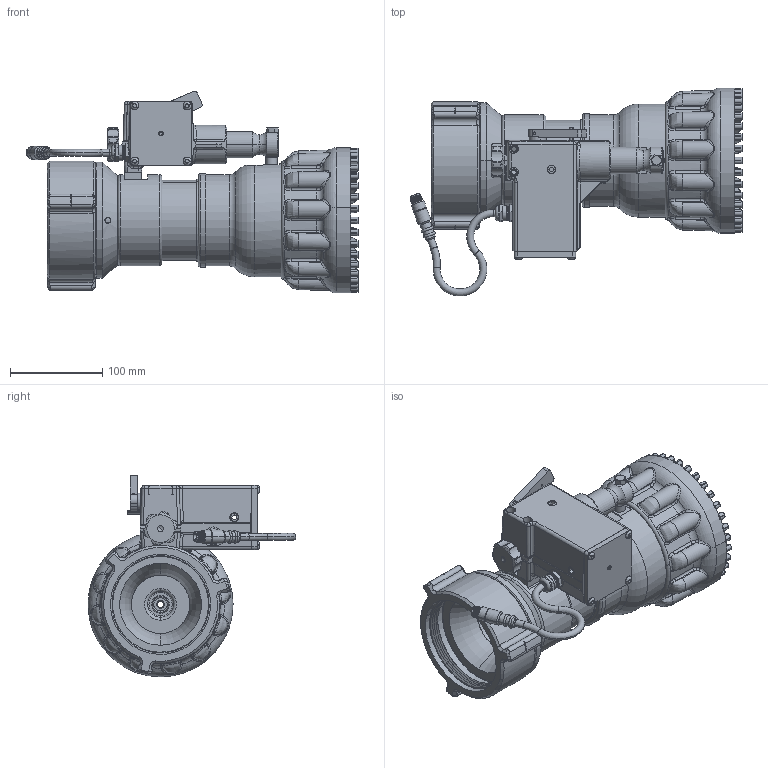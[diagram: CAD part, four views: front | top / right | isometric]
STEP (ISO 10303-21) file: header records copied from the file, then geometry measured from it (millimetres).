
FILE_DESCRIPTION (( 'STEP AP203' ), '1' );
FILE_NAME ('M-ERP1000-NN.step', '2014-05-13T19:37:38', ( 'user' ), ( '' ), 'SwSTEP 2.0', 'SolidWorks 2012', '' );
FILE_SCHEMA (( 'CONFIG_CONTROL_DESIGN' ));
Products named in the file (1): M-ERP1000-NN
Bounding box: 360.42 x 225.76 x 218.96 mm (x, y, z)
Surface area: 359388 mm2 (no closed solid volume)
Topology: 0 solids, 55 shells, 1491 faces, 4320 edges, 2794 vertices
Faces by surface type: cylinder 552, plane 436, bspline 253, cone 134, torus 99, sphere 17
Entity records: 75020 total; most frequent: CARTESIAN_POINT 39501, ORIENTED_EDGE 7904, DIRECTION 6442, EDGE_CURVE 4308, VERTEX_POINT 2786, AXIS2_PLACEMENT_3D 2445, EDGE_LOOP 1569, LINE 1552
